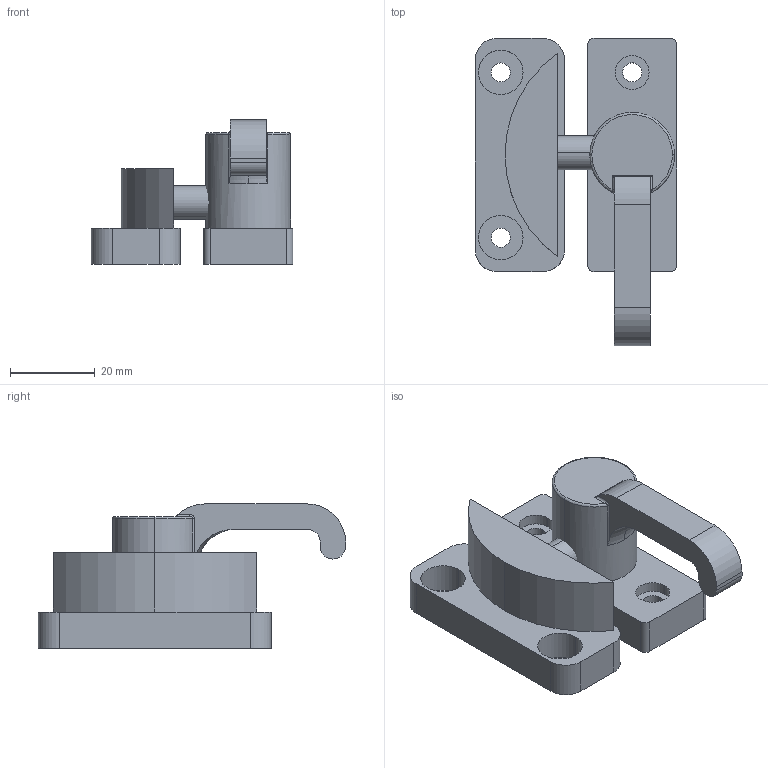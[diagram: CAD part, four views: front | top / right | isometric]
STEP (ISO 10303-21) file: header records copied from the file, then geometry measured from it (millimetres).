
FILE_DESCRIPTION (( 'STEP AP214' ), '1' );
FILE_NAME ('084.517.001sx.STEP', '2023-12-13T13:34:07', ( '' ), ( '' ), 'SwSTEP 2.0', 'SolidWorks 2021', '' );
FILE_SCHEMA (( 'AUTOMOTIVE_DESIGN' ));
Length unit declared in the file: millimetre
Products named in the file (1): 084.517.001sx
Bounding box: 47.5 x 72.5 x 34 mm (x, y, z)
Volume: 23837.8 mm3; surface area: 15285.7 mm2
Topology: 3 solids, 3 shells, 92 faces, 229 edges, 150 vertices
Faces by surface type: cylinder 50, plane 35, torus 5, bspline 2
Entity records: 2950 total; most frequent: CARTESIAN_POINT 614, DIRECTION 504, ORIENTED_EDGE 458, EDGE_CURVE 229, AXIS2_PLACEMENT_3D 196, VERTEX_POINT 150, VECTOR 112, LINE 112
